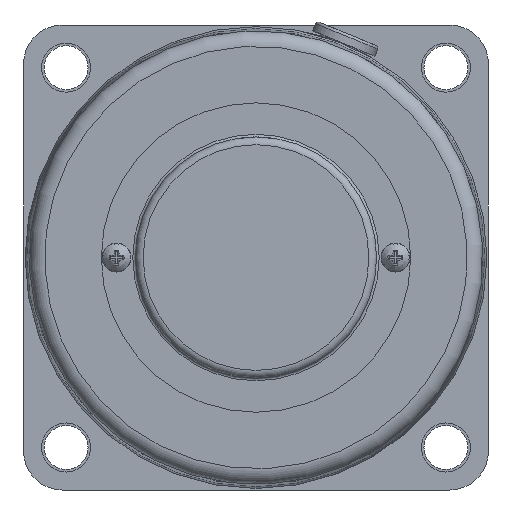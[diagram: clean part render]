
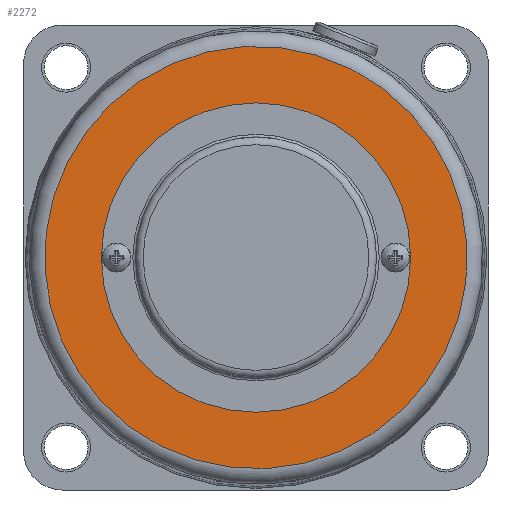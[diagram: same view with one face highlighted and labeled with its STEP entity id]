
A CAD part, left-side view. The second image highlights one B-rep face of the part: STEP entity #2272.
In plain terms, the highlighted planar face has unit normal (-1, 0, 0).
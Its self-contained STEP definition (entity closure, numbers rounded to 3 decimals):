
#56=PLANE('',#2445);
#141=FACE_BOUND('',#755,.T.);
#611=FACE_OUTER_BOUND('',#754,.T.);
#754=EDGE_LOOP('',(#1608));
#755=EDGE_LOOP('',(#1609));
#931=CIRCLE('',#2446,40.9);
#932=CIRCLE('',#2447,29.95);
#1049=VERTEX_POINT('',#3441);
#1050=VERTEX_POINT('',#3443);
#1271=EDGE_CURVE('',#1049,#1049,#931,.T.);
#1272=EDGE_CURVE('',#1050,#1050,#932,.T.);
#1608=ORIENTED_EDGE('',*,*,#1271,.F.);
#1609=ORIENTED_EDGE('',*,*,#1272,.F.);
#2272=ADVANCED_FACE('',(#611,#141),#56,.T.);
#2445=AXIS2_PLACEMENT_3D('',#3440,#2713,#2714);
#2446=AXIS2_PLACEMENT_3D('',#3442,#2715,#2716);
#2447=AXIS2_PLACEMENT_3D('',#3444,#2717,#2718);
#2713=DIRECTION('center_axis',(-1.,0.,0.));
#2714=DIRECTION('ref_axis',(0.,0.395,0.918));
#2715=DIRECTION('center_axis',(1.,0.,0.));
#2716=DIRECTION('ref_axis',(0.,0.395,0.918));
#2717=DIRECTION('center_axis',(-1.,0.,0.));
#2718=DIRECTION('ref_axis',(0.,-1.,0.));
#3440=CARTESIAN_POINT('Origin',(-40.5,0.,0.));
#3441=CARTESIAN_POINT('',(-40.5,-16.174,-37.566));
#3442=CARTESIAN_POINT('Origin',(-40.5,0.,0.));
#3443=CARTESIAN_POINT('',(-40.5,-29.95,0.));
#3444=CARTESIAN_POINT('Origin',(-40.5,0.,0.));
